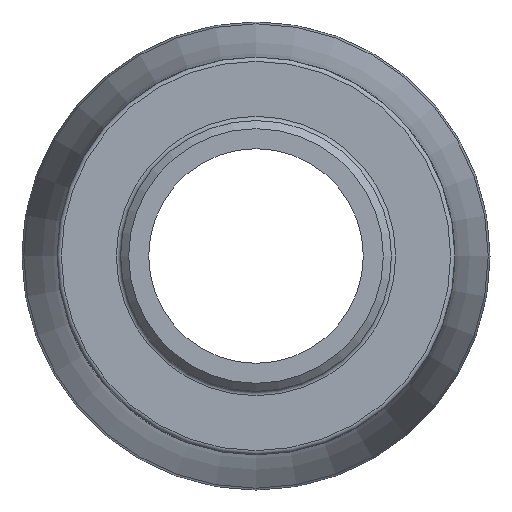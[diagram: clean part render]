
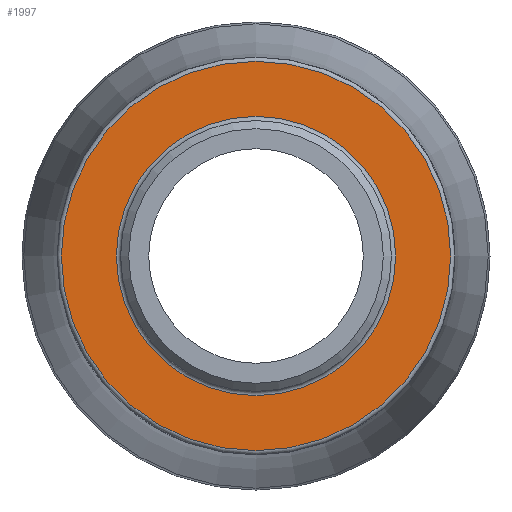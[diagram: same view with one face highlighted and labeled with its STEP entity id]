
A CAD part, left-side view. The second image highlights one B-rep face of the part: STEP entity #1997.
In plain terms, the highlighted planar face has unit normal (-1, 0, 0).
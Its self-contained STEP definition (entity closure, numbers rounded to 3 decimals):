
#202=FACE_BOUND('',#440,.T.);
#224=PLANE('',#2222);
#318=FACE_OUTER_BOUND('',#439,.T.);
#439=EDGE_LOOP('',(#1602,#1603));
#440=EDGE_LOOP('',(#1604,#1605));
#800=CIRCLE('',#2220,30.732);
#801=CIRCLE('',#2221,30.732);
#802=CIRCLE('',#2223,42.85);
#803=CIRCLE('',#2224,42.85);
#953=VERTEX_POINT('',#3543);
#954=VERTEX_POINT('',#3545);
#955=VERTEX_POINT('',#3549);
#956=VERTEX_POINT('',#3550);
#1188=EDGE_CURVE('',#953,#954,#800,.T.);
#1189=EDGE_CURVE('',#954,#953,#801,.T.);
#1190=EDGE_CURVE('',#955,#956,#802,.T.);
#1191=EDGE_CURVE('',#956,#955,#803,.T.);
#1602=ORIENTED_EDGE('',*,*,#1190,.F.);
#1603=ORIENTED_EDGE('',*,*,#1191,.F.);
#1604=ORIENTED_EDGE('',*,*,#1189,.F.);
#1605=ORIENTED_EDGE('',*,*,#1188,.F.);
#1997=ADVANCED_FACE('',(#318,#202),#224,.T.);
#2220=AXIS2_PLACEMENT_3D('',#3546,#2635,#2636);
#2221=AXIS2_PLACEMENT_3D('',#3547,#2637,#2638);
#2222=AXIS2_PLACEMENT_3D('',#3548,#2639,#2640);
#2223=AXIS2_PLACEMENT_3D('',#3551,#2641,#2642);
#2224=AXIS2_PLACEMENT_3D('',#3552,#2643,#2644);
#2635=DIRECTION('center_axis',(-1.,0.,0.));
#2636=DIRECTION('ref_axis',(0.,-1.,0.));
#2637=DIRECTION('center_axis',(-1.,0.,0.));
#2638=DIRECTION('ref_axis',(0.,-1.,0.));
#2639=DIRECTION('center_axis',(-1.,0.,0.));
#2640=DIRECTION('ref_axis',(0.,0.,1.));
#2641=DIRECTION('center_axis',(1.,0.,0.));
#2642=DIRECTION('ref_axis',(0.,-1.,0.));
#2643=DIRECTION('center_axis',(1.,0.,0.));
#2644=DIRECTION('ref_axis',(0.,-1.,0.));
#3543=CARTESIAN_POINT('',(26.,0.,30.732));
#3545=CARTESIAN_POINT('',(26.,30.732,0.));
#3546=CARTESIAN_POINT('Origin',(26.,0.,0.));
#3547=CARTESIAN_POINT('Origin',(26.,0.,0.));
#3548=CARTESIAN_POINT('Origin',(26.,43.775,0.));
#3549=CARTESIAN_POINT('',(26.,42.85,0.));
#3550=CARTESIAN_POINT('',(26.,0.,42.85));
#3551=CARTESIAN_POINT('Origin',(26.,0.,0.));
#3552=CARTESIAN_POINT('Origin',(26.,0.,0.));
